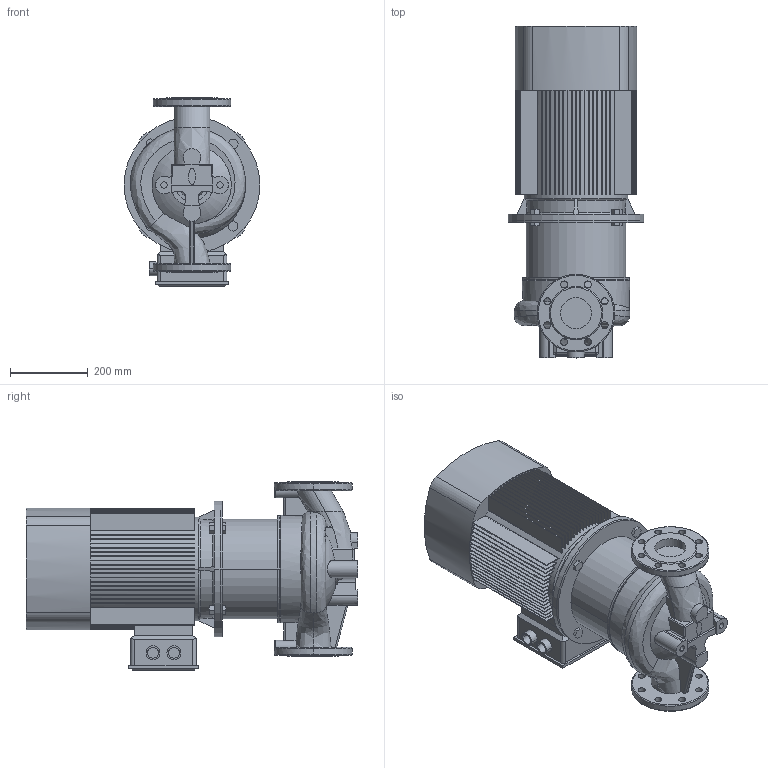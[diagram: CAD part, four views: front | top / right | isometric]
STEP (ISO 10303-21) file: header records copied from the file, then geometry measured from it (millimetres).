
FILE_DESCRIPTION (( 'STEP AP203' ), '1' );
FILE_NAME ('TD80-32G_2.STEP', '2022-05-01T13:13:44', ( '' ), ( '' ), 'SwSTEP 2.0', 'SolidWorks 2019', '' );
FILE_SCHEMA (( 'CONFIG_CONTROL_DESIGN' ));
Length unit declared in the file: millimetre
Products named in the file (4): Pr_ch 80_TD80-32G_2; Fon_80_TD80-32G_2; ED_B5_YE2-160M1-2 (11); TD80-32G_2
Assembly tree (3 placements, depth 2):
  TD80-32G_2
    Pr_ch 80_TD80-32G_2
    Fon_80_TD80-32G_2
    ED_B5_YE2-160M1-2 (11)
Bounding box: 350 x 855 x 486 mm (x, y, z)
Volume: 49980517.2 mm3; surface area: 2715965.8 mm2
Topology: 13 solids, 15 shells, 740 faces, 2003 edges, 1324 vertices
Faces by surface type: plane 504, cylinder 160, torus 29, bspline 28, cone 17, sphere 2
Entity records: 30928 total; most frequent: CARTESIAN_POINT 11613, ORIENTED_EDGE 4002, DIRECTION 3924, EDGE_CURVE 2001, AXIS2_PLACEMENT_3D 1368, VERTEX_POINT 1324, VECTOR 1188, LINE 1188
